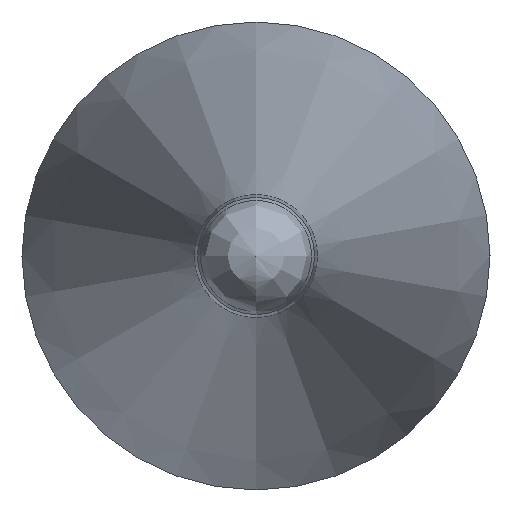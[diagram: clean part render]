
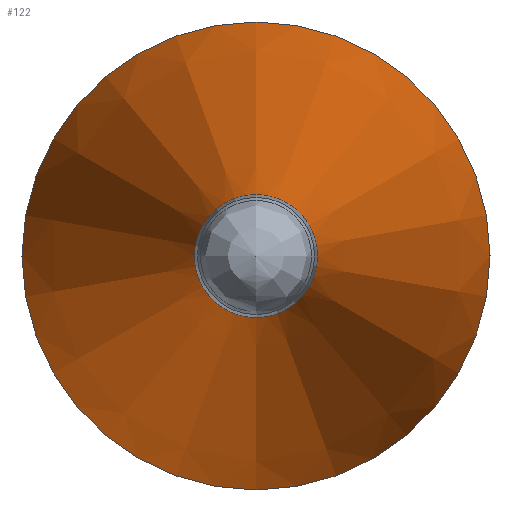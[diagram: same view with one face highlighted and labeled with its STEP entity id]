
A CAD part, left-side view. The second image highlights one B-rep face of the part: STEP entity #122.
In plain terms, the highlighted conical face has half-angle 12 degrees and reference radius 2 mm.
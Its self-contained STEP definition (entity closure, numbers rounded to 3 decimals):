
#98=CONICAL_SURFACE('',#197,2.,12.);
#107=FACE_BOUND('',#136,.T.);
#108=FACE_BOUND('',#137,.T.);
#122=ADVANCED_FACE('',(#107,#108),#98,.T.);
#136=EDGE_LOOP('',(#152));
#137=EDGE_LOOP('',(#153));
#152=ORIENTED_EDGE('',*,*,#175,.T.);
#153=ORIENTED_EDGE('',*,*,#176,.F.);
#166=VERTEX_POINT('',#249);
#167=VERTEX_POINT('',#252);
#175=EDGE_CURVE('',#166,#166,#183,.T.);
#176=EDGE_CURVE('',#167,#167,#184,.T.);
#183=CIRCLE('',#194,0.526);
#184=CIRCLE('',#196,2.);
#194=AXIS2_PLACEMENT_3D('',#248,#217,#218);
#196=AXIS2_PLACEMENT_3D('',#251,#221,#222);
#197=AXIS2_PLACEMENT_3D('',#253,#223,#224);
#217=DIRECTION('',(1.,0.,0.));
#218=DIRECTION('',(0.,0.,-1.));
#221=DIRECTION('',(1.,0.,0.));
#222=DIRECTION('',(0.,0.,-1.));
#223=DIRECTION('',(1.,0.,0.));
#224=DIRECTION('',(0.,0.,-1.));
#248=CARTESIAN_POINT('',(7901.912,6103.288,0.));
#249=CARTESIAN_POINT('',(7901.912,6103.288,-0.526));
#251=CARTESIAN_POINT('',(7908.848,6103.288,0.));
#252=CARTESIAN_POINT('',(7908.848,6103.288,-2.));
#253=CARTESIAN_POINT('',(7908.848,6103.288,0.));
